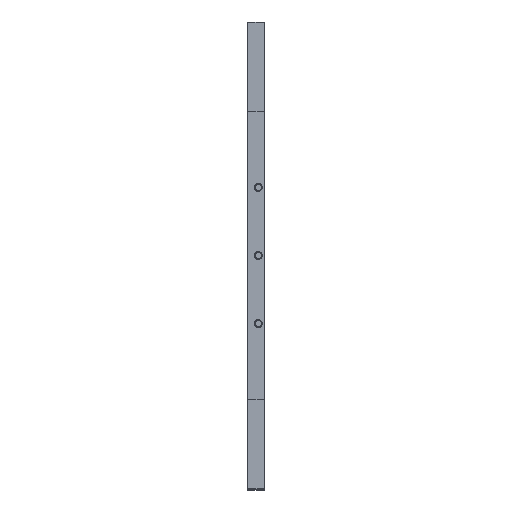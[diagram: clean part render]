
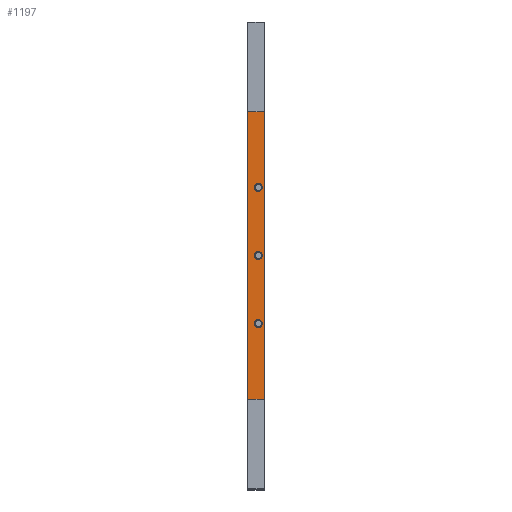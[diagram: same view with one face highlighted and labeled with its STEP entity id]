
A CAD part, top view. The second image highlights one B-rep face of the part: STEP entity #1197.
In plain terms, the highlighted planar face has unit normal (0, 0, 1).
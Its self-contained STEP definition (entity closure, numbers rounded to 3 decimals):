
#122 = VERTEX_POINT ( 'NONE', #3177 ) ;
#213 = ORIENTED_EDGE ( 'NONE', *, *, #1545, .T. ) ;
#255 = EDGE_CURVE ( 'NONE', #4189, #1463, #4784, .T. ) ;
#306 = VERTEX_POINT ( 'NONE', #5116 ) ;
#579 = DIRECTION ( 'NONE',  ( 0., 0., 1. ) ) ;
#612 = FACE_BOUND ( 'NONE', #6374, .T. ) ;
#697 = LINE ( 'NONE', #2862, #1964 ) ;
#752 = CARTESIAN_POINT ( 'NONE',  ( -130.3, -10.563, 177. ) ) ;
#827 = DIRECTION ( 'NONE',  ( 1., 0., 0. ) ) ;
#877 = DIRECTION ( 'NONE',  ( 0., -1., 0. ) ) ;
#907 = CARTESIAN_POINT ( 'NONE',  ( -128.8, -47.563, 177. ) ) ;
#1071 = ORIENTED_EDGE ( 'NONE', *, *, #2801, .F. ) ;
#1086 = EDGE_LOOP ( 'NONE', ( #1071, #2712 ) ) ;
#1197 = ADVANCED_FACE ( 'NONE', ( #3554, #5952, #612, #4439 ), #6150, .F. ) ;
#1260 = CIRCLE ( 'NONE', #6661, 1.025 ) ;
#1319 = VERTEX_POINT ( 'NONE', #1789 ) ;
#1353 = CARTESIAN_POINT ( 'NONE',  ( -130.3, 6.937, 177. ) ) ;
#1463 = VERTEX_POINT ( 'NONE', #6540 ) ;
#1530 = DIRECTION ( 'NONE',  ( 1., 0., 0. ) ) ;
#1545 = EDGE_CURVE ( 'NONE', #6487, #5811, #7218, .T. ) ;
#1562 = CIRCLE ( 'NONE', #1934, 1.025 ) ;
#1789 = CARTESIAN_POINT ( 'NONE',  ( -129.275, -10.563, 177. ) ) ;
#1912 = DIRECTION ( 'NONE',  ( 1., 0., 0. ) ) ;
#1934 = AXIS2_PLACEMENT_3D ( 'NONE', #4108, #5834, #5257 ) ;
#1964 = VECTOR ( 'NONE', #5050, 1000. ) ;
#2346 = CARTESIAN_POINT ( 'NONE',  ( -130.3, -28.063, 177. ) ) ;
#2391 = VECTOR ( 'NONE', #2724, 1000. ) ;
#2417 = EDGE_LOOP ( 'NONE', ( #4829, #6231 ) ) ;
#2441 = EDGE_LOOP ( 'NONE', ( #213, #3453, #3685, #6787 ) ) ;
#2460 = EDGE_CURVE ( 'NONE', #6487, #3403, #6737, .T. ) ;
#2545 = AXIS2_PLACEMENT_3D ( 'NONE', #2346, #2914, #6815 ) ;
#2629 = CARTESIAN_POINT ( 'NONE',  ( -133., -47.563, 177. ) ) ;
#2712 = ORIENTED_EDGE ( 'NONE', *, *, #255, .F. ) ;
#2724 = DIRECTION ( 'NONE',  ( 1., 0., 0. ) ) ;
#2731 = CARTESIAN_POINT ( 'NONE',  ( -131.325, 6.937, 177. ) ) ;
#2764 = CARTESIAN_POINT ( 'NONE',  ( -130.3, -10.563, 177. ) ) ;
#2772 = DIRECTION ( 'NONE',  ( 0., 0., -1. ) ) ;
#2801 = EDGE_CURVE ( 'NONE', #1463, #4189, #6096, .T. ) ;
#2862 = CARTESIAN_POINT ( 'NONE',  ( -128.8, -70.563, 177. ) ) ;
#2914 = DIRECTION ( 'NONE',  ( 0., 0., 1. ) ) ;
#3011 = EDGE_CURVE ( 'NONE', #7135, #122, #6275, .T. ) ;
#3055 = CIRCLE ( 'NONE', #6949, 1.025 ) ;
#3143 = CARTESIAN_POINT ( 'NONE',  ( -133., -70.563, 177. ) ) ;
#3177 = CARTESIAN_POINT ( 'NONE',  ( -129.275, -28.063, 177. ) ) ;
#3256 = EDGE_CURVE ( 'NONE', #5811, #5103, #5206, .T. ) ;
#3317 = DIRECTION ( 'NONE',  ( 0., 0., 1. ) ) ;
#3387 = AXIS2_PLACEMENT_3D ( 'NONE', #1353, #7100, #827 ) ;
#3403 = VERTEX_POINT ( 'NONE', #4973 ) ;
#3453 = ORIENTED_EDGE ( 'NONE', *, *, #3256, .T. ) ;
#3554 = FACE_BOUND ( 'NONE', #2417, .T. ) ;
#3566 = DIRECTION ( 'NONE',  ( 0., 0., 1. ) ) ;
#3614 = VECTOR ( 'NONE', #5389, 1000. ) ;
#3685 = ORIENTED_EDGE ( 'NONE', *, *, #5491, .T. ) ;
#3804 = AXIS2_PLACEMENT_3D ( 'NONE', #3973, #579, #5729 ) ;
#3973 = CARTESIAN_POINT ( 'NONE',  ( -130.3, 6.937, 177. ) ) ;
#4108 = CARTESIAN_POINT ( 'NONE',  ( -130.3, -28.063, 177. ) ) ;
#4145 = ORIENTED_EDGE ( 'NONE', *, *, #6009, .F. ) ;
#4189 = VERTEX_POINT ( 'NONE', #2731 ) ;
#4245 = EDGE_CURVE ( 'NONE', #122, #7135, #1562, .T. ) ;
#4439 = FACE_OUTER_BOUND ( 'NONE', #2441, .T. ) ;
#4461 = DIRECTION ( 'NONE',  ( -1., 0., 0. ) ) ;
#4784 = CIRCLE ( 'NONE', #3804, 1.025 ) ;
#4829 = ORIENTED_EDGE ( 'NONE', *, *, #4245, .F. ) ;
#4868 = CARTESIAN_POINT ( 'NONE',  ( -133., -47.563, 177. ) ) ;
#4973 = CARTESIAN_POINT ( 'NONE',  ( -128.8, 26.437, 177. ) ) ;
#5040 = CARTESIAN_POINT ( 'NONE',  ( -133., 26.437, 177. ) ) ;
#5050 = DIRECTION ( 'NONE',  ( 0., 1., 0. ) ) ;
#5103 = VERTEX_POINT ( 'NONE', #907 ) ;
#5116 = CARTESIAN_POINT ( 'NONE',  ( -131.325, -10.563, 177. ) ) ;
#5206 = LINE ( 'NONE', #2629, #3614 ) ;
#5257 = DIRECTION ( 'NONE',  ( 1., 0., 0. ) ) ;
#5331 = CARTESIAN_POINT ( 'NONE',  ( -131.325, -28.063, 177. ) ) ;
#5389 = DIRECTION ( 'NONE',  ( 1., 0., 0. ) ) ;
#5491 = EDGE_CURVE ( 'NONE', #5103, #3403, #697, .T. ) ;
#5698 = EDGE_CURVE ( 'NONE', #306, #1319, #3055, .T. ) ;
#5729 = DIRECTION ( 'NONE',  ( 1., 0., 0. ) ) ;
#5811 = VERTEX_POINT ( 'NONE', #4868 ) ;
#5834 = DIRECTION ( 'NONE',  ( 0., 0., 1. ) ) ;
#5952 = FACE_BOUND ( 'NONE', #1086, .T. ) ;
#6009 = EDGE_CURVE ( 'NONE', #1319, #306, #1260, .T. ) ;
#6096 = CIRCLE ( 'NONE', #3387, 1.025 ) ;
#6116 = VECTOR ( 'NONE', #877, 1000. ) ;
#6150 = PLANE ( 'NONE',  #7351 ) ;
#6231 = ORIENTED_EDGE ( 'NONE', *, *, #3011, .F. ) ;
#6275 = CIRCLE ( 'NONE', #2545, 1.025 ) ;
#6374 = EDGE_LOOP ( 'NONE', ( #4145, #7356 ) ) ;
#6487 = VERTEX_POINT ( 'NONE', #5040 ) ;
#6540 = CARTESIAN_POINT ( 'NONE',  ( -129.275, 6.937, 177. ) ) ;
#6661 = AXIS2_PLACEMENT_3D ( 'NONE', #2764, #3317, #1530 ) ;
#6737 = LINE ( 'NONE', #7312, #2391 ) ;
#6785 = CARTESIAN_POINT ( 'NONE',  ( 0., 0., 177. ) ) ;
#6787 = ORIENTED_EDGE ( 'NONE', *, *, #2460, .F. ) ;
#6815 = DIRECTION ( 'NONE',  ( 1., 0., 0. ) ) ;
#6949 = AXIS2_PLACEMENT_3D ( 'NONE', #752, #3566, #1912 ) ;
#7100 = DIRECTION ( 'NONE',  ( 0., 0., 1. ) ) ;
#7135 = VERTEX_POINT ( 'NONE', #5331 ) ;
#7218 = LINE ( 'NONE', #3143, #6116 ) ;
#7312 = CARTESIAN_POINT ( 'NONE',  ( -133., 26.437, 177. ) ) ;
#7351 = AXIS2_PLACEMENT_3D ( 'NONE', #6785, #2772, #4461 ) ;
#7356 = ORIENTED_EDGE ( 'NONE', *, *, #5698, .F. ) ;
